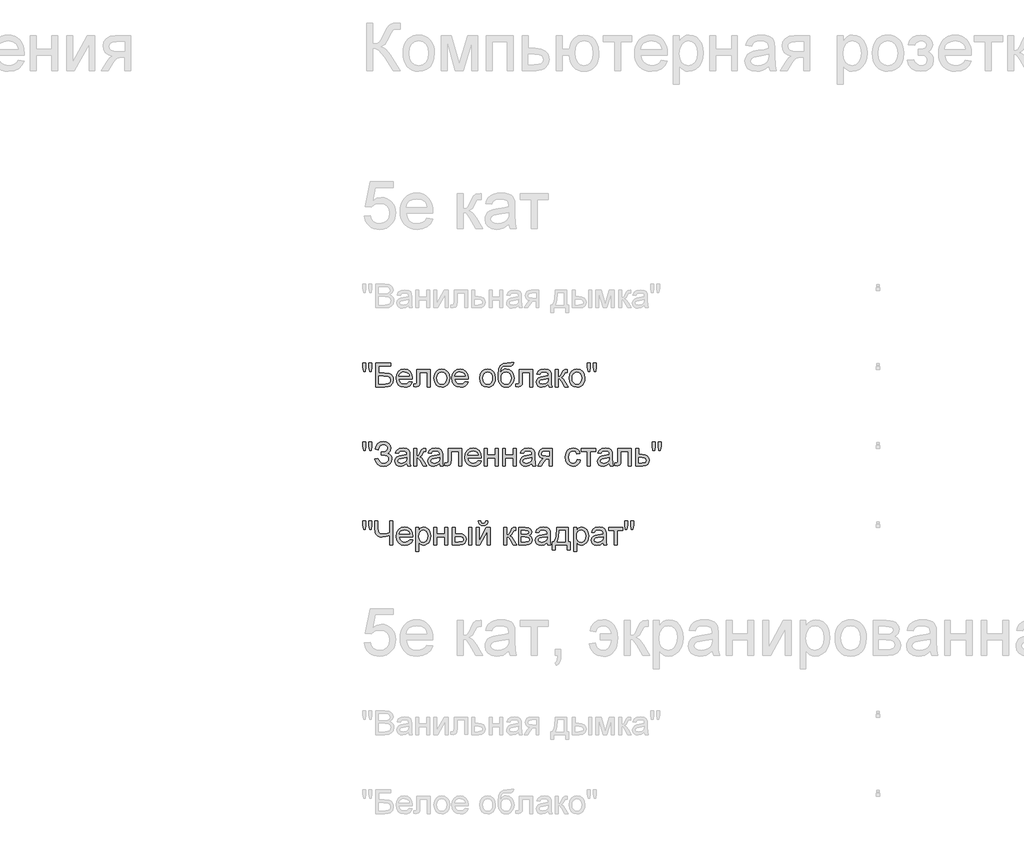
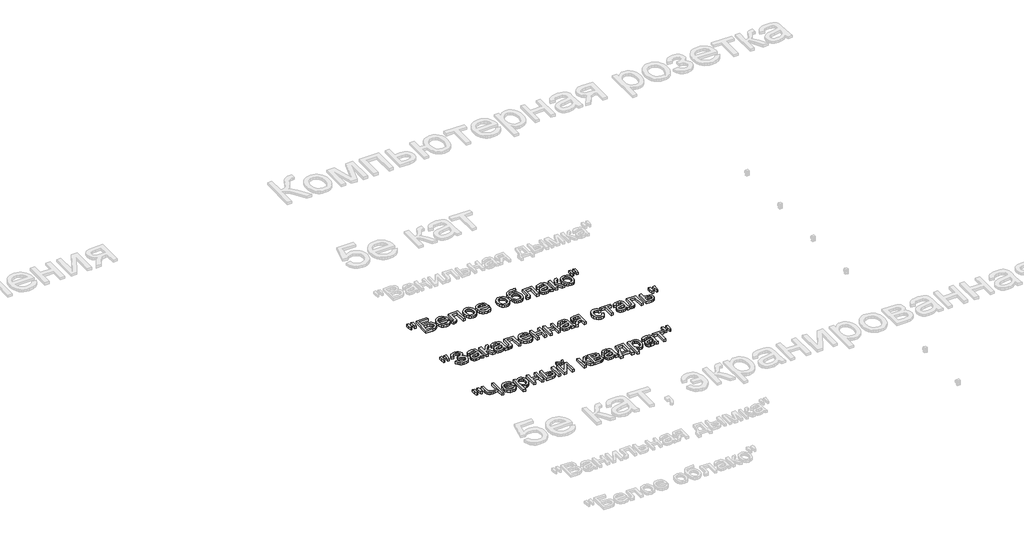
# One storey, part 76 of 168: 3 proxies.
"""IFC4 building model written with IfcOpenShell, lengths in millimetres."""

import ifcopenshell
import ifcopenshell.guid

model = None  # the IFC model being written
_history = None  # IfcOwnerHistory: only IFC2X3 demands one
_inside = {}  # id of a spatial element -> (the spatial element, [elements in it])
_under = {}  # id of a project, library or spatial element -> (it, [spatial elements below it])
_declared = {}  # id of a project -> (the project, [libraries it declares])
_typed = {}  # id of a type object -> (the type object, [elements of that type])
_made_of = {}  # id of a material, layer set ... -> (it, [elements and type objects made of it])


def new_model(schema):
    """Start an empty IFC model of exactly this schema.

    Asked for "IFC4X3", IfcOpenShell would pick the latest addendum, in which some entities
    have other attributes; the version numbers below select the first issue.
    IFC2X3 requires an IfcOwnerHistory on every rooted entity: one is made here for all.
    """
    global model, _history
    if schema == "IFC4X3":
        model = ifcopenshell.file(schema_version=(4, 3, 0, 0))
    else:
        model = ifcopenshell.file(schema=schema)
    _inside.clear()
    _under.clear()
    _declared.clear()
    _typed.clear()
    _made_of.clear()
    _history = None
    if model.schema == "IFC2X3":
        org = make("IfcOrganization", Name="unknown")
        user = make(
            "IfcPersonAndOrganization",
            ThePerson=make("IfcPerson", FamilyName="unknown"),
            TheOrganization=org,
        )
        app = make(
            "IfcApplication",
            ApplicationDeveloper=org,
            Version="unknown",
            ApplicationFullName="unknown",
            ApplicationIdentifier="unknown",
        )
        _history = make(
            "IfcOwnerHistory",
            OwningUser=user,
            OwningApplication=app,
            ChangeAction="ADDED",
            CreationDate=0,
        )
    return model


def make(cls, **values):
    """One entity of the class cls with the attributes given. An attribute that is None is left unset."""
    return model.create_entity(
        cls, **{name: value for name, value in values.items() if value is not None}
    )


def rooted(cls, **values):
    """An entity with a GlobalId (a new one), such as an element, a storey or a relation."""
    return make(cls, GlobalId=ifcopenshell.guid.new(), OwnerHistory=_history, **values)


def si_unit(unit_type, name, prefix=None):
    """IfcSIUnit, for example si_unit("LENGTHUNIT", "METRE", prefix="MILLI")."""
    return make("IfcSIUnit", UnitType=unit_type, Prefix=prefix, Name=name)


def assignment(units):
    """IfcUnitAssignment: the units of a project."""
    return None if units is None else make("IfcUnitAssignment", Units=units)


def point(xyz):
    """IfcCartesianPoint."""
    return None if xyz is None else make("IfcCartesianPoint", Coordinates=xyz)


def direction(xyz):
    """IfcDirection."""
    return None if xyz is None else make("IfcDirection", DirectionRatios=xyz)


def frame(location, z_axis=None, x_axis=None):
    """IfcAxis2Placement3D, a coordinate frame: its origin and axes. An axis left out is left unset."""
    return make(
        "IfcAxis2Placement3D",
        Location=point(location),
        Axis=direction(z_axis),
        RefDirection=direction(x_axis),
    )


def origin():
    """The frame at (0, 0, 0) with its axes left unset."""
    return frame((0.0, 0.0, 0.0))


def origin_with_axes():
    """The frame at (0, 0, 0) with the z axis (0, 0, 1) and the x axis (1, 0, 0) written out."""
    return frame((0.0, 0.0, 0.0), z_axis=(0.0, 0.0, 1.0), x_axis=(1.0, 0.0, 0.0))


def place(relative_to, where):
    """IfcLocalPlacement: puts the frame where relative to a parent placement (None: the world)."""
    return make(
        "IfcLocalPlacement", PlacementRelTo=relative_to, RelativePlacement=where
    )


def context(
    kind, dimensions, precision=None, world=None, true_north=None, identifier=None
):
    """IfcGeometricRepresentationContext, for example the 3D "Model" context."""
    return make(
        "IfcGeometricRepresentationContext",
        ContextIdentifier=identifier,
        ContextType=kind,
        CoordinateSpaceDimension=dimensions,
        Precision=precision,
        WorldCoordinateSystem=world,
        TrueNorth=true_north,
    )


def project(units=None, contexts=None):
    """IfcProject with its units and contexts."""
    return rooted(
        "IfcProject",
        Name="project",
        RepresentationContexts=contexts,
        UnitsInContext=assignment(units),
    )


def spatial(cls, under=None, at=None, **own):
    """A site, building, storey or space (cls), placed at a placement, below another one or the project."""
    s = rooted(cls, ObjectPlacement=at, **own)
    if under is not None:
        _under.setdefault(under.id(), (under, []))[1].append(s)
    return s


def polyline(points):
    """IfcPolyline through the points."""
    return make("IfcPolyline", Points=[point(p) for p in points])


def outline(outer, holes=None, kind="AREA"):
    """IfcArbitraryClosedProfileDef: a profile drawn as a closed curve; with holes, ...WithVoids."""
    if holes is None:
        return make("IfcArbitraryClosedProfileDef", ProfileType=kind, OuterCurve=outer)
    return make(
        "IfcArbitraryProfileDefWithVoids",
        ProfileType=kind,
        OuterCurve=outer,
        InnerCurves=holes,
    )


def extrude(swept, where, along, depth):
    """IfcExtrudedAreaSolid: the profile swept, set in the frame where, extruded along a direction by depth."""
    return make(
        "IfcExtrudedAreaSolid",
        SweptArea=swept,
        Position=where,
        ExtrudedDirection=direction(along),
        Depth=depth,
    )


def shape(context_of_items, identifier, shape_type, items):
    """IfcShapeRepresentation: the items that make up one representation, for example the "Body"."""
    return make(
        "IfcShapeRepresentation",
        ContextOfItems=context_of_items,
        RepresentationIdentifier=identifier,
        RepresentationType=shape_type,
        Items=items,
    )


def made_of(thing, what):
    """Note that an element or type object is made of a material, layer set ...; save() writes the relation."""
    if what is not None:
        _made_of.setdefault(what.id(), (what, []))[1].append(thing)
    return thing


def element(
    cls,
    number,
    at=None,
    inside=None,
    cuts=None,
    type_object=None,
    material=None,
    context=None,
    identifier="Body",
    shape_type=None,
    held_by="IfcProductDefinitionShape",
    body=None,
    shapes=None,
    **own,
):
    """One element of the class cls, such as IfcWall. Its Tag is "e" and its number.

    at: its placement. inside: the storey or other place that contains it. cuts: it is an
    opening in that element (IfcRelVoidsElement). A single representation is given by context,
    identifier, shape_type and body (its items); several are given by shapes. held_by: the class
    of the entity that holds the representations. save() writes the other relations.
    """
    e = rooted(cls, Tag="e%d" % number, ObjectPlacement=at, **own)
    if body is not None:
        shapes = [shape(context, identifier, shape_type, body)]
    if shapes is not None:
        e.Representation = make(held_by, Representations=shapes)
    if inside is not None:
        _inside.setdefault(inside.id(), (inside, []))[1].append(e)
    if cuts is not None:
        rooted(
            "IfcRelVoidsElement", RelatingBuildingElement=cuts, RelatedOpeningElement=e
        )
    if type_object is not None:
        _typed.setdefault(type_object.id(), (type_object, []))[1].append(e)
    return made_of(e, material)


def aggregate(whole, parts):
    """IfcRelAggregates: a whole, such as a stair, and the parts it consists of."""
    return rooted("IfcRelAggregates", RelatingObject=whole, RelatedObjects=parts)


def save(model, path):
    """Write the relations noted so far, then the file.

    IfcRelAggregates (storeys below a building ...), IfcRelContainedInSpatialStructure (elements
    in a storey), IfcRelDefinesByType, IfcRelAssociatesMaterial and IfcRelDeclares: one each for
    every whole, place, type object, material and project.
    """
    for whole, parts in _under.values():
        aggregate(whole, parts)
    for where, things in _inside.values():
        rooted(
            "IfcRelContainedInSpatialStructure",
            RelatedElements=things,
            RelatingStructure=where,
        )
    for kind, things in _typed.values():
        rooted("IfcRelDefinesByType", RelatedObjects=things, RelatingType=kind)
    for what, things in _made_of.values():
        rooted("IfcRelAssociatesMaterial", RelatedObjects=things, RelatingMaterial=what)
    for by, libraries in _declared.values():
        rooted("IfcRelDeclares", RelatingContext=by, RelatedDefinitions=libraries)
    model.write(path)


model = new_model("IFC4")

# Units and contexts
model_context = context("Model", 3, world=origin())
ifc_project = project(units=[si_unit("LENGTHUNIT", "METRE", prefix="MILLI")], contexts=[model_context])

# Site, building, storey
site = spatial("IfcSite", under=ifc_project)
building = spatial("IfcBuilding", under=site)
storey = spatial("IfcBuildingStorey", under=building, Name="Этаж 01", Elevation=0.0)

# Proxies
placement = place(None, origin())
element("IfcBuildingElementProxy", 1, Name="150", ObjectType="150", at=placement, inside=storey, context=model_context, shape_type="SweptSolid", body=[
    extrude(outline(polyline([(60180.1485789, -32870.3300622), (60175.550054, -32841.2305964), (60175.550054, -32816.1778325), (60194.3856121, -32816.1778325), (60194.3856121, -32841.2305964), (60190.2653338, -32870.3300622), (60180.1485789, -32870.3300622)])), origin_with_axes(), (0.0, 0.0, 1.0), 20.0),
    extrude(outline(polyline([(60217.7093306, -32870.3300622), (60213.2211703, -32841.2305964), (60213.2211703, -32816.1778325), (60232.0567284, -32816.1778325), (60232.0567284, -32841.2305964), (60227.6421445, -32870.3300622), (60217.7093306, -32870.3300622)])), origin_with_axes(), (0.0, 0.0, 1.0), 20.0),
    extrude(outline(polyline([(60257.9556209, -32816.1778325), (60352.1334117, -32816.1778325), (60352.1334117, -32835.0133907), (60276.791179, -32835.0133907), (60276.791179, -32879.7478413), (60312.0710624, -32879.7478413), (60343.157091, -32883.573814), (60353.5589544, -32889.101241), (60361.6615553, -32898.0315764), (60366.8762826, -32909.5278888), (60368.614525, -32922.7532465), (60363.6665122, -32944.2191609), (60348.8960501, -32960.5347274), (60335.6247071, -32965.2804052), (60315.4555767, -32966.8622977), (60257.9556209, -32966.8622977), (60257.9556209, -32816.1778325)]), holes=[polyline([(60276.791179, -32948.0267396), (60317.1478339, -32948.0267396), (60331.4124583, -32946.4724382), (60341.6119866, -32941.8095339), (60347.7372218, -32934.0380267), (60349.7789669, -32923.1579167), (60345.1068655, -32908.4058487), (60332.102237, -32900.533174), (60303.7201411, -32898.5833994), (60276.791179, -32898.5833994), (60276.791179, -32948.0267396)])]), origin_with_axes(), (0.0, 0.0, 1.0), 20.0),
    extrude(outline(polyline([(60469.6349209, -32933.900071), (60488.1025971, -32936.2545157), (60481.4485315, -32950.1696522), (60470.8305374, -32960.5715156), (60456.4877381, -32967.0554358), (60438.6592569, -32969.2167425), (60416.5587461, -32965.4873388), (60399.5534008, -32954.2991276), (60388.710079, -32936.3786759), (60385.0956384, -32912.4525506), (60388.7468672, -32887.7216835), (60399.7005536, -32869.2264162), (60416.4759726, -32857.6933157), (60437.5923991, -32853.8489488), (60458.0512366, -32857.6841186), (60474.3989927, -32869.189628), (60485.1181544, -32887.6481071), (60488.6912083, -32912.342186), (60488.5808437, -32917.4189576), (60403.9311966, -32917.4189576), (60407.1915508, -32931.518035), (60414.7653213, -32941.8831103), (60425.6960151, -32948.2566658), (60439.0271389, -32950.3811843), (60457.4948151, -32946.444847), (60469.6349209, -32933.900071)]), holes=[polyline([(60403.9311966, -32898.5833994), (60469.8556501, -32898.5833994), (60467.3080673, -32888.6321915), (60462.3140692, -32881.5136749), (60451.3327917, -32874.8917989), (60437.5188227, -32872.684507), (60424.8222954, -32874.445742), (60414.3238629, -32879.7294472), (60407.0260039, -32887.9654053), (60403.9311966, -32898.5833994)])]), origin_with_axes(), (0.0, 0.0, 1.0), 20.0),
    extrude(outline(polyline([(60516.9445455, -32856.2033936), (60601.7045572, -32856.2033936), (60601.7045572, -32966.7519331), (60582.868999, -32966.7519331), (60582.868999, -32875.0389517), (60535.7801036, -32875.0389517), (60535.7801036, -32927.830018), (60534.5109108, -32952.1838061), (60527.539547, -32962.4661079), (60511.0584336, -32966.8622977), (60495.7545426, -32965.9058045), (60495.7545426, -32948.0267396), (60504.1790403, -32948.0267396), (60512.6955084, -32946.8679113), (60516.0984169, -32943.1890913), (60516.9445455, -32926.7631603), (60516.9445455, -32856.2033936)])), origin_with_axes(), (0.0, 0.0, 1.0), 20.0),
    extrude(outline(polyline([(60625.2490049, -32911.5328457), (60629.323298, -32884.852204), (60641.5461773, -32866.0994193), (60656.6477332, -32856.9115664), (60674.7291332, -32853.8489488), (60694.516586, -32857.5783525), (60710.3217163, -32868.7665637), (60720.6821929, -32886.5306656), (60724.1356852, -32909.9877413), (60722.6089749, -32929.0164375), (60718.0288441, -32943.501791), (60710.5286499, -32954.3497114), (60700.2417496, -32962.4661079), (60688.0234688, -32967.5290839), (60674.7291332, -32969.2167425), (60654.7025571, -32965.5011344), (60638.915821, -32954.3543099), (60628.6657089, -32936.2177275), (60625.2490049, -32911.5328457)]), holes=[polyline([(60644.084563, -32911.4960575), (60646.2642638, -32928.5427894), (60652.8033663, -32940.6874938), (60662.6442097, -32947.9577617), (60674.7291332, -32950.3811843), (60686.7588745, -32947.9439661), (60696.5813237, -32940.6323115), (60703.1204262, -32928.3266587), (60705.300127, -32910.9074463), (60703.1066306, -32894.357355), (60696.5261414, -32882.3781975), (60686.6898966, -32875.1079296), (60674.7291332, -32872.684507), (60662.6442097, -32875.0987326), (60652.8033663, -32882.3414093), (60646.2642638, -32894.4585226), (60644.084563, -32911.4960575)])]), origin_with_axes(), (0.0, 0.0, 1.0), 20.0),
    extrude(outline(polyline([(60822.8016363, -32933.900071), (60841.2693124, -32936.2545157), (60834.6152469, -32950.1696522), (60823.9972528, -32960.5715156), (60809.6544535, -32967.0554358), (60791.8259723, -32969.2167425), (60769.7254614, -32965.4873388), (60752.7201162, -32954.2991276), (60741.8767944, -32936.3786759), (60738.2623538, -32912.4525506), (60741.9135826, -32887.7216835), (60752.867269, -32869.2264162), (60769.642688, -32857.6933157), (60790.7591145, -32853.8489488), (60811.217952, -32857.6841186), (60827.5657081, -32869.189628), (60838.2848698, -32887.6481071), (60841.8579236, -32912.342186), (60841.747559, -32917.4189576), (60757.0979119, -32917.4189576), (60760.3582661, -32931.518035), (60767.9320367, -32941.8831103), (60778.8627305, -32948.2566658), (60792.1938543, -32950.3811843), (60810.6615304, -32946.444847), (60822.8016363, -32933.900071)]), holes=[polyline([(60757.0979119, -32898.5833994), (60823.0223655, -32898.5833994), (60820.4747827, -32888.6321915), (60815.4807846, -32881.5136749), (60804.499507, -32874.8917989), (60790.6855381, -32872.684507), (60777.9890107, -32874.445742), (60767.4905783, -32879.7294472), (60760.1927192, -32887.9654053), (60757.0979119, -32898.5833994)])]), origin_with_axes(), (0.0, 0.0, 1.0), 20.0),
    extrude(outline(polyline([(60914.8457115, -32911.5328457), (60918.9200046, -32884.852204), (60931.1428839, -32866.0994193), (60946.2444398, -32856.9115664), (60964.3258398, -32853.8489488), (60984.1132926, -32857.5783525), (60999.9184229, -32868.7665637), (61010.2788995, -32886.5306656), (61013.7323918, -32909.9877413), (61012.2056815, -32929.0164375), (61007.6255507, -32943.501791), (61000.1253565, -32954.3497114), (60989.8384562, -32962.4661079), (60977.6201754, -32967.5290839), (60964.3258398, -32969.2167425), (60944.2992637, -32965.5011344), (60928.5125276, -32954.3543099), (60918.2624155, -32936.2177275), (60914.8457115, -32911.5328457)]), holes=[polyline([(60933.6812696, -32911.4960575), (60935.8609704, -32928.5427894), (60942.4000729, -32940.6874938), (60952.2409163, -32947.9577617), (60964.3258398, -32950.3811843), (60976.3555811, -32947.9439661), (60986.1780303, -32940.6323115), (60992.7171328, -32928.3266587), (60994.8968336, -32910.9074463), (60992.7033372, -32894.357355), (60986.122848, -32882.3781975), (60976.2866032, -32875.1079296), (60964.3258398, -32872.684507), (60952.2409163, -32875.0987326), (60942.4000729, -32882.3414093), (60935.8609704, -32894.4585226), (60933.6812696, -32911.4960575)])]), origin_with_axes(), (0.0, 0.0, 1.0), 20.0),
    extrude(outline(polyline([(61112.6190721, -32813.8233877), (61129.1001855, -32813.8233877), (61124.2441431, -32828.5202734), (61114.6424231, -32833.8361683), (61091.576222, -32835.0133907), (61060.5085875, -32839.3543982), (61053.3808738, -32845.0013868), (61048.5892108, -32853.2603376), (61044.560903, -32877.8716431), (61060.8764695, -32859.8454253), (61070.7954878, -32855.3480679), (61081.9009255, -32853.8489488), (61101.4998388, -32857.661126), (61117.401538, -32869.0976575), (61127.9413572, -32887.0365033), (61131.4546302, -32910.3556233), (61129.7117893, -32928.3358558), (61124.4832664, -32942.766027), (61107.9469707, -32962.3189551), (61096.6529935, -32967.4922957), (61081.9009255, -32969.2167425), (61064.9001788, -32966.995655), (61052.1576662, -32960.3323923), (61042.7812738, -32950.2064404), (61035.8788879, -32937.597285), (61031.6298508, -32918.6099755), (61030.2135052, -32889.3495614), (61033.786559, -32853.2097538), (61044.5057207, -32831.1690238), (61062.6377045, -32819.9256303), (61088.449225, -32816.1778325), (61109.4184987, -32815.7547682), (61112.6190721, -32813.8233877)]), holes=[polyline([(61112.6190721, -32909.7670121), (61110.577327, -32894.9459662), (61104.4520918, -32883.0771733), (61094.6112484, -32875.2826736), (61081.4226789, -32872.684507), (61067.6730893, -32875.4298264), (61057.473561, -32883.6657845), (61051.1551877, -32896.4910706), (61049.0490633, -32913.0043736), (61051.3759169, -32929.011839), (61058.3564778, -32940.7610702), (61068.7491442, -32947.9761558), (61081.3123143, -32950.3811843), (61093.9398638, -32947.5990768), (61103.937057, -32939.252754), (61110.4485683, -32926.3171033), (61112.6190721, -32909.7670121)])]), origin_with_axes(), (0.0, 0.0, 1.0), 20.0),
    extrude(outline(polyline([(61164.416857, -32856.2033936), (61249.1768687, -32856.2033936), (61249.1768687, -32966.7519331), (61230.3413105, -32966.7519331), (61230.3413105, -32875.0389517), (61183.2524152, -32875.0389517), (61183.2524152, -32927.830018), (61181.9832223, -32952.1838061), (61175.0118585, -32962.4661079), (61158.5307451, -32966.8622977), (61143.2268541, -32965.9058045), (61143.2268541, -32948.0267396), (61151.6513518, -32948.0267396), (61160.16782, -32946.8679113), (61163.5707284, -32943.1890913), (61164.416857, -32926.7631603), (61164.416857, -32856.2033936)])), origin_with_axes(), (0.0, 0.0, 1.0), 20.0),
    extrude(outline(polyline([(61348.063549, -32952.7356291), (61329.7982079, -32965.5011344), (61309.6198805, -32969.2167425), (61293.8791296, -32966.9818594), (61282.2678542, -32960.27721), (61275.1079508, -32950.0960758), (61272.7213164, -32937.4317381), (61276.3265599, -32922.5325173), (61285.7995213, -32911.7167867), (61298.9880908, -32905.5363691), (61315.2852632, -32902.7036778), (61347.9531844, -32896.2289547), (61348.063549, -32892.0350999), (61346.766765, -32883.6289963), (61342.8764129, -32878.1291605), (61334.1760037, -32874.0456704), (61322.0542919, -32872.684507), (61302.9980046, -32876.3081446), (61293.9113193, -32889.1656204), (61275.0757612, -32886.8111756), (61283.2243473, -32868.4170758), (61299.6318843, -32857.6381334), (61324.4823131, -32853.8489488), (61347.3093909, -32857.196675), (61360.2036548, -32865.6027786), (61365.9794022, -32878.3866779), (61366.8991071, -32894.8677913), (61366.8991071, -32918.3018744), (61367.8556003, -32951.0249778), (61371.6079967, -32966.8622977), (61352.7724385, -32966.8622977), (61348.063549, -32952.7356291)]), holes=[polyline([(61348.063549, -32915.0645128), (61317.6764962, -32920.8402601), (61301.4712943, -32923.8936807), (61294.1320485, -32928.8600876), (61291.5568745, -32936.1073629), (61297.167075, -32946.2976942), (61313.6297942, -32950.3811843), (61332.6860816, -32945.8746299), (61344.9733402, -32934.9669288), (61347.9531844, -32920.3988017), (61348.063549, -32915.0645128)])]), origin_with_axes(), (0.0, 0.0, 1.0), 20.0),
    extrude(outline(polyline([(61392.7979996, -32856.2033936), (61411.6335578, -32856.2033936), (61411.6335578, -32903.292289), (61424.2519102, -32899.9077746), (61434.5893943, -32880.1892997), (61443.1794388, -32863.1747574), (61450.7578079, -32857.6381334), (61464.5349887, -32856.2033936), (61468.1402322, -32856.2033936), (61468.1402322, -32875.1493163), (61463.0634607, -32875.0389517), (61453.8664108, -32877.0255145), (61447.3916877, -32889.4231377), (61439.7949245, -32902.8324365), (61429.1447407, -32909.3991301), (61441.0273292, -32916.7291788), (61452.6891884, -32932.1710256), (61472.8491218, -32966.8622977), (61451.4383896, -32966.8622977), (61431.6831265, -32932.9067896), (61421.7503126, -32918.5409977), (61411.6335578, -32915.0645128), (61411.6335578, -32966.8622977), (61392.7979996, -32966.8622977), (61392.7979996, -32856.2033936)])), origin_with_axes(), (0.0, 0.0, 1.0), 20.0),
    extrude(outline(polyline([(61479.9124561, -32911.5328457), (61483.9867492, -32884.852204), (61496.2096285, -32866.0994193), (61511.3111844, -32856.9115664), (61529.3925844, -32853.8489488), (61549.1800372, -32857.5783525), (61564.9851674, -32868.7665637), (61575.3456441, -32886.5306656), (61578.7991364, -32909.9877413), (61577.2724261, -32929.0164375), (61572.6922952, -32943.501791), (61565.1921011, -32954.3497114), (61554.9052008, -32962.4661079), (61542.68692, -32967.5290839), (61529.3925844, -32969.2167425), (61509.3660083, -32965.5011344), (61493.5792722, -32954.3543099), (61483.3291601, -32936.2177275), (61479.9124561, -32911.5328457)]), holes=[polyline([(61498.7480142, -32911.4960575), (61500.927715, -32928.5427894), (61507.4668175, -32940.6874938), (61517.3076609, -32947.9577617), (61529.3925844, -32950.3811843), (61541.4223257, -32947.9439661), (61551.2447749, -32940.6323115), (61557.7838774, -32928.3266587), (61559.9635782, -32910.9074463), (61557.7700818, -32894.357355), (61551.1895926, -32882.3781975), (61541.3533478, -32875.1079296), (61529.3925844, -32872.684507), (61517.3076609, -32875.0987326), (61507.4668175, -32882.3414093), (61500.927715, -32894.4585226), (61498.7480142, -32911.4960575)])]), origin_with_axes(), (0.0, 0.0, 1.0), 20.0),
    extrude(outline(polyline([(61599.8787747, -32870.3300622), (61595.2802498, -32841.2305964), (61595.2802498, -32816.1778325), (61614.1158079, -32816.1778325), (61614.1158079, -32841.2305964), (61609.9955296, -32870.3300622), (61599.8787747, -32870.3300622)])), origin_with_axes(), (0.0, 0.0, 1.0), 20.0),
    extrude(outline(polyline([(61637.4395264, -32870.3300622), (61632.9513661, -32841.2305964), (61632.9513661, -32816.1778325), (61651.7869242, -32816.1778325), (61651.7869242, -32841.2305964), (61647.3723403, -32870.3300622), (61637.4395264, -32870.3300622)])), origin_with_axes(), (0.0, 0.0, 1.0), 20.0),
])
element("IfcBuildingElementProxy", 2, Name="150", ObjectType="150", at=placement, inside=storey, context=model_context, shape_type="SweptSolid", body=[
    extrude(outline(polyline([(60180.1485789, -33370.3300622), (60175.550054, -33341.2305964), (60175.550054, -33316.1778325), (60194.3856121, -33316.1778325), (60194.3856121, -33341.2305964), (60190.2653338, -33370.3300622), (60180.1485789, -33370.3300622)])), origin_with_axes(), (0.0, 0.0, 1.0), 20.0),
    extrude(outline(polyline([(60217.7093306, -33370.3300622), (60213.2211703, -33341.2305964), (60213.2211703, -33316.1778325), (60232.0567284, -33316.1778325), (60232.0567284, -33341.2305964), (60227.6421445, -33370.3300622), (60217.7093306, -33370.3300622)])), origin_with_axes(), (0.0, 0.0, 1.0), 20.0),
    extrude(outline(polyline([(60250.8922866, -33424.4822919), (60269.7278447, -33419.7734024), (60281.2977335, -33440.172459), (60292.2284273, -33447.829003), (60306.2217387, -33450.3811843), (60320.398991, -33448.4635995), (60331.2193202, -33442.7108448), (60338.0757209, -33434.2449603), (60340.3611878, -33424.1879863), (60337.8641888, -33413.6527657), (60330.3731916, -33405.517975), (60318.5779752, -33400.3170433), (60303.1683181, -33398.5833994), (60293.2722924, -33398.5833994), (60293.2722924, -33379.7478413), (60314.591054, -33378.221131), (60327.6324708, -33370.4220327), (60333.2978535, -33356.1666054), (60331.4124583, -33347.2960508), (60325.7562726, -33339.6670979), (60316.8811195, -33334.4109839), (60305.3388219, -33332.6589459), (60286.1169876, -33338.0484171), (60275.117316, -33352.3406326), (60272.0822895, -33365.6211727), (60253.2467313, -33360.9122831), (60259.0983543, -33340.3108914), (60269.7002536, -33325.5956116), (60285.0524291, -33316.7664437), (60305.1548809, -33313.8233877), (60324.5468605, -33316.8814068), (60339.4598769, -33326.0554641), (60348.965028, -33339.3222085), (60352.1334117, -33354.6582892), (60347.2037929, -33373.3007093), (60332.4149367, -33387.2158458), (60342.8903765, -33392.0396984), (60351.5080123, -33400.1836861), (60357.2745625, -33410.948833), (60359.196746, -33423.6361633), (60355.508729, -33441.4738415), (60344.444678, -33456.1385376), (60327.2921799, -33465.9471913), (60305.3388219, -33469.2167425), (60286.2365493, -33466.4208393), (60270.7947025, -33458.0331298), (60259.0132816, -33444.053614), (60250.8922866, -33424.4822919)])), origin_with_axes(), (0.0, 0.0, 1.0), 20.0),
    extrude(outline(polyline([(60453.3745367, -33452.7356291), (60435.1091957, -33465.5011344), (60414.9308682, -33469.2167425), (60399.1901174, -33466.9818594), (60387.5788419, -33460.27721), (60380.4189386, -33450.0960758), (60378.0323041, -33437.4317381), (60381.6375477, -33422.5325173), (60391.110509, -33411.7167867), (60404.2990786, -33405.5363691), (60420.596251, -33402.7036778), (60453.2641721, -33396.2289547), (60453.3745367, -33392.0350999), (60452.0777527, -33383.6289963), (60448.1874006, -33378.1291605), (60439.4869914, -33374.0456704), (60427.3652797, -33372.684507), (60408.3089923, -33376.3081446), (60399.222307, -33389.1656204), (60380.3867489, -33386.8111756), (60388.5353351, -33368.4170758), (60404.9428721, -33357.6381334), (60429.7933008, -33353.8489488), (60452.6203786, -33357.196675), (60465.5146426, -33365.6027786), (60471.2903899, -33378.3866779), (60472.2100949, -33394.8677913), (60472.2100949, -33418.3018744), (60473.1665881, -33451.0249778), (60476.9189844, -33466.8622977), (60458.0834263, -33466.8622977), (60453.3745367, -33452.7356291)]), holes=[polyline([(60453.3745367, -33415.0645128), (60422.9874839, -33420.8402601), (60406.782282, -33423.8936807), (60399.4430362, -33428.8600876), (60396.8678623, -33436.1073629), (60402.4780627, -33446.2976942), (60418.940782, -33450.3811843), (60437.9970693, -33445.8746299), (60450.284328, -33434.9669288), (60453.2641721, -33420.3988017), (60453.3745367, -33415.0645128)])]), origin_with_axes(), (0.0, 0.0, 1.0), 20.0),
    extrude(outline(polyline([(60498.1089873, -33356.2033936), (60516.9445455, -33356.2033936), (60516.9445455, -33403.292289), (60529.5628979, -33399.9077746), (60539.900382, -33380.1892997), (60548.4904266, -33363.1747574), (60556.0687957, -33357.6381334), (60569.8459764, -33356.2033936), (60573.4512199, -33356.2033936), (60573.4512199, -33375.1493163), (60568.3744484, -33375.0389517), (60559.1773985, -33377.0255145), (60552.7026754, -33389.4231377), (60545.1059122, -33402.8324365), (60534.4557285, -33409.3991301), (60546.3383169, -33416.7291788), (60558.0001762, -33432.1710256), (60578.1601095, -33466.8622977), (60556.7493774, -33466.8622977), (60536.9941142, -33432.9067896), (60527.0613004, -33418.5409977), (60516.9445455, -33415.0645128), (60516.9445455, -33466.8622977), (60498.1089873, -33466.8622977), (60498.1089873, -33356.2033936)])), origin_with_axes(), (0.0, 0.0, 1.0), 20.0),
    extrude(outline(polyline([(60660.5656764, -33452.7356291), (60642.3003353, -33465.5011344), (60622.1220079, -33469.2167425), (60606.381257, -33466.9818594), (60594.7699816, -33460.27721), (60587.6100782, -33450.0960758), (60585.2234438, -33437.4317381), (60588.8286873, -33422.5325173), (60598.3016487, -33411.7167867), (60611.4902183, -33405.5363691), (60627.7873906, -33402.7036778), (60660.4553118, -33396.2289547), (60660.5656764, -33392.0350999), (60659.2688924, -33383.6289963), (60655.3785403, -33378.1291605), (60646.6781311, -33374.0456704), (60634.5564193, -33372.684507), (60615.500132, -33376.3081446), (60606.4134467, -33389.1656204), (60587.5778886, -33386.8111756), (60595.7264748, -33368.4170758), (60612.1340117, -33357.6381334), (60636.9844405, -33353.8489488), (60659.8115183, -33357.196675), (60672.7057822, -33365.6027786), (60678.4815296, -33378.3866779), (60679.4012346, -33394.8677913), (60679.4012346, -33418.3018744), (60680.3577277, -33451.0249778), (60684.1101241, -33466.8622977), (60665.2745659, -33466.8622977), (60660.5656764, -33452.7356291)]), holes=[polyline([(60660.5656764, -33415.0645128), (60630.1786236, -33420.8402601), (60613.9734217, -33423.8936807), (60606.6341759, -33428.8600876), (60604.0590019, -33436.1073629), (60609.6692024, -33446.2976942), (60626.1319217, -33450.3811843), (60645.188209, -33445.8746299), (60657.4754676, -33434.9669288), (60660.4553118, -33420.3988017), (60660.5656764, -33415.0645128)])]), origin_with_axes(), (0.0, 0.0, 1.0), 20.0),
    extrude(outline(polyline([(60714.7179061, -33356.2033936), (60799.4779178, -33356.2033936), (60799.4779178, -33466.7519331), (60780.6423596, -33466.7519331), (60780.6423596, -33375.0389517), (60733.5534643, -33375.0389517), (60733.5534643, -33427.830018), (60732.2842714, -33452.1838061), (60725.3129076, -33462.4661079), (60708.8317942, -33466.8622977), (60693.5279032, -33465.9058045), (60693.5279032, -33448.0267396), (60701.9524009, -33448.0267396), (60710.4688691, -33446.8679113), (60713.8717775, -33443.1890913), (60714.7179061, -33426.7631603), (60714.7179061, -33356.2033936)])), origin_with_axes(), (0.0, 0.0, 1.0), 20.0),
    extrude(outline(polyline([(60905.2072032, -33433.900071), (60923.6748794, -33436.2545157), (60917.0208138, -33450.1696522), (60906.4028197, -33460.5715156), (60892.0600204, -33467.0554358), (60874.2315392, -33469.2167425), (60852.1310283, -33465.4873388), (60835.1256831, -33454.2991276), (60824.2823613, -33436.3786759), (60820.6679207, -33412.4525506), (60824.3191495, -33387.7216835), (60835.2728359, -33369.2264162), (60852.0482549, -33357.6933157), (60873.1646814, -33353.8489488), (60893.6235189, -33357.6841186), (60909.971275, -33369.189628), (60920.6904367, -33387.6481071), (60924.2634906, -33412.342186), (60924.153126, -33417.4189576), (60839.5034789, -33417.4189576), (60842.763833, -33431.518035), (60850.3376036, -33441.8831103), (60861.2682974, -33448.2566658), (60874.5994212, -33450.3811843), (60893.0670974, -33446.444847), (60905.2072032, -33433.900071)]), holes=[polyline([(60839.5034789, -33398.5833994), (60905.4279324, -33398.5833994), (60902.8803496, -33388.6321915), (60897.8863515, -33381.5136749), (60886.9050739, -33374.8917989), (60873.091105, -33372.684507), (60860.3945777, -33374.445742), (60849.8961452, -33379.7294472), (60842.5982861, -33387.9654053), (60839.5034789, -33398.5833994)])]), origin_with_axes(), (0.0, 0.0, 1.0), 20.0),
    extrude(outline(polyline([(60943.0990487, -33356.2033936), (60961.9346069, -33356.2033936), (60961.9346069, -33398.5833994), (61011.377947, -33398.5833994), (61011.377947, -33356.2033936), (61030.2135052, -33356.2033936), (61030.2135052, -33466.8622977), (61011.377947, -33466.8622977), (61011.377947, -33417.4189576), (60961.9346069, -33417.4189576), (60961.9346069, -33466.8622977), (60943.0990487, -33466.8622977), (60943.0990487, -33356.2033936)])), origin_with_axes(), (0.0, 0.0, 1.0), 20.0),
    extrude(outline(polyline([(61058.4668424, -33356.2033936), (61077.3024005, -33356.2033936), (61077.3024005, -33398.5833994), (61126.7457407, -33398.5833994), (61126.7457407, -33356.2033936), (61145.5812988, -33356.2033936), (61145.5812988, -33466.8622977), (61126.7457407, -33466.8622977), (61126.7457407, -33417.4189576), (61077.3024005, -33417.4189576), (61077.3024005, -33466.8622977), (61058.4668424, -33466.8622977), (61058.4668424, -33356.2033936)])), origin_with_axes(), (0.0, 0.0, 1.0), 20.0),
    extrude(outline(polyline([(61244.4679792, -33452.7356291), (61226.2026381, -33465.5011344), (61206.0243107, -33469.2167425), (61190.2835598, -33466.9818594), (61178.6722843, -33460.27721), (61171.512381, -33450.0960758), (61169.1257465, -33437.4317381), (61172.7309901, -33422.5325173), (61182.2039515, -33411.7167867), (61195.392521, -33405.5363691), (61211.6896934, -33402.7036778), (61244.3576146, -33396.2289547), (61244.4679792, -33392.0350999), (61243.1711951, -33383.6289963), (61239.280843, -33378.1291605), (61230.5804338, -33374.0456704), (61218.4587221, -33372.684507), (61199.4024347, -33376.3081446), (61190.3157495, -33389.1656204), (61171.4801913, -33386.8111756), (61179.6287775, -33368.4170758), (61196.0363145, -33357.6381334), (61220.8867433, -33353.8489488), (61243.7138211, -33357.196675), (61256.608085, -33365.6027786), (61262.3838323, -33378.3866779), (61263.3035373, -33394.8677913), (61263.3035373, -33418.3018744), (61264.2600305, -33451.0249778), (61268.0124268, -33466.8622977), (61249.1768687, -33466.8622977), (61244.4679792, -33452.7356291)]), holes=[polyline([(61244.4679792, -33415.0645128), (61214.0809264, -33420.8402601), (61197.8757245, -33423.8936807), (61190.5364787, -33428.8600876), (61187.9613047, -33436.1073629), (61193.5715051, -33446.2976942), (61210.0342244, -33450.3811843), (61229.0905118, -33445.8746299), (61241.3777704, -33434.9669288), (61244.3576146, -33420.3988017), (61244.4679792, -33415.0645128)])]), origin_with_axes(), (0.0, 0.0, 1.0), 20.0),
    extrude(outline(polyline([(61373.9624415, -33356.2033936), (61373.9624415, -33466.8622977), (61355.1268833, -33466.8622977), (61355.1268833, -33424.4822919), (61344.8629756, -33424.4822919), (61330.8834598, -33426.8735249), (61317.7500726, -33442.949968), (61302.7404872, -33466.8622977), (61280.9618731, -33466.8622977), (61299.8710076, -33436.6223977), (61308.2219289, -33425.7698789), (61315.9106626, -33420.9506247), (61303.0347928, -33417.0050903), (61293.9848957, -33409.5094947), (61288.6322127, -33399.5398926), (61286.847985, -33388.172339), (61289.2852032, -33375.278075), (61296.5968579, -33365.0693497), (61308.5254316, -33358.4198826), (61324.8134069, -33356.2033936), (61373.9624415, -33356.2033936)]), holes=[polyline([(61355.1268833, -33375.0389517), (61330.2948486, -33375.0389517), (61317.4695626, -33376.1288021), (61310.1900976, -33379.3983534), (61305.6835431, -33389.6070787), (61307.3436107, -33396.7853762), (61312.3238132, -33401.7655787), (61335.8498668, -33405.6467337), (61355.1268833, -33405.6467337), (61355.1268833, -33375.0389517)])]), origin_with_axes(), (0.0, 0.0, 1.0), 20.0),
    extrude(outline(polyline([(61531.710241, -33426.8367367), (61550.5457991, -33429.1911814), (61545.2942837, -33445.9436078), (61535.4258491, -33458.6033469), (61521.8693976, -33466.5633936), (61505.5538311, -33469.2167425), (61485.518058, -33465.5149299), (61469.8508835, -33454.4094922), (61459.7387272, -33436.387873), (61456.3680084, -33411.9375159), (61457.8073467, -33395.1758924), (61462.1253616, -33380.6491522), (61469.391031, -33368.918315), (61479.6733328, -33360.5444011), (61491.974387, -33355.5228119), (61505.2963137, -33353.8489488), (61521.2118085, -33356.1482113), (61533.9359271, -33363.0459987), (61543.0639991, -33374.174429), (61548.1913544, -33389.1656204), (61529.3557962, -33391.5200651), (61520.6185988, -33377.4117906), (61505.4434665, -33372.684507), (61493.271171, -33375.0113606), (61483.6096701, -33381.9919214), (61477.3050924, -33394.0032686), (61475.2035665, -33411.4224811), (61477.2591072, -33429.0762183), (61483.4257291, -33441.1289522), (61492.9124861, -33448.0681263), (61504.9284317, -33450.3811843), (61514.6819031, -33448.9372475), (61522.678738, -33444.605437), (61528.4958721, -33437.2753883), (61531.710241, -33426.8367367)])), origin_with_axes(), (0.0, 0.0, 1.0), 20.0),
    extrude(outline(polyline([(61557.6091334, -33356.2033936), (61647.0780347, -33356.2033936), (61647.0780347, -33375.0389517), (61611.7613631, -33375.0389517), (61611.7613631, -33466.8622977), (61592.925805, -33466.8622977), (61592.925805, -33375.0389517), (61557.6091334, -33375.0389517), (61557.6091334, -33356.2033936)])), origin_with_axes(), (0.0, 0.0, 1.0), 20.0),
    extrude(outline(polyline([(61734.1924911, -33452.7356291), (61715.9271501, -33465.5011344), (61695.7488226, -33469.2167425), (61680.0080718, -33466.9818594), (61668.3967963, -33460.27721), (61661.236893, -33450.0960758), (61658.8502585, -33437.4317381), (61662.4555021, -33422.5325173), (61671.9284634, -33411.7167867), (61685.117033, -33405.5363691), (61701.4142054, -33402.7036778), (61734.0821265, -33396.2289547), (61734.1924911, -33392.0350999), (61732.8957071, -33383.6289963), (61729.005355, -33378.1291605), (61720.3049458, -33374.0456704), (61708.1832341, -33372.684507), (61689.1269467, -33376.3081446), (61680.0402614, -33389.1656204), (61661.2047033, -33386.8111756), (61669.3532895, -33368.4170758), (61685.7608265, -33357.6381334), (61710.6112552, -33353.8489488), (61733.438333, -33357.196675), (61746.332597, -33365.6027786), (61752.1083443, -33378.3866779), (61753.0280493, -33394.8677913), (61753.0280493, -33418.3018744), (61753.9845425, -33451.0249778), (61757.7369388, -33466.8622977), (61738.9013807, -33466.8622977), (61734.1924911, -33452.7356291)]), holes=[polyline([(61734.1924911, -33415.0645128), (61703.8054383, -33420.8402601), (61687.6002364, -33423.8936807), (61680.2609906, -33428.8600876), (61677.6858167, -33436.1073629), (61683.2960171, -33446.2976942), (61699.7587364, -33450.3811843), (61718.8150237, -33445.8746299), (61731.1022824, -33434.9669288), (61734.0821265, -33420.3988017), (61734.1924911, -33415.0645128)])]), origin_with_axes(), (0.0, 0.0, 1.0), 20.0),
    extrude(outline(polyline([(61788.3447208, -33356.2033936), (61873.1047325, -33356.2033936), (61873.1047325, -33466.7519331), (61854.2691744, -33466.7519331), (61854.2691744, -33375.0389517), (61807.180279, -33375.0389517), (61807.180279, -33427.830018), (61805.9110861, -33452.1838061), (61798.9397223, -33462.4661079), (61782.4586089, -33466.8622977), (61767.1547179, -33465.9058045), (61767.1547179, -33448.0267396), (61775.5792156, -33448.0267396), (61784.0956838, -33446.8679113), (61787.4985922, -33443.1890913), (61788.3447208, -33426.7631603), (61788.3447208, -33356.2033936)])), origin_with_axes(), (0.0, 0.0, 1.0), 20.0),
    extrude(outline(polyline([(61901.3580697, -33356.2033936), (61920.1936279, -33356.2033936), (61920.1936279, -33396.2289547), (61941.8986656, -33396.2289547), (61960.7158297, -33398.587998), (61974.6401632, -33405.6651278), (61983.2486019, -33416.8901272), (61986.1180814, -33431.692779), (61983.6762647, -33445.1710556), (61976.3508145, -33456.5432078), (61963.6542871, -33464.2825252), (61945.099239, -33466.8622977), (61901.3580697, -33466.8622977), (61901.3580697, -33356.2033936)]), holes=[polyline([(61920.1936279, -33448.0267396), (61937.7783873, -33448.0267396), (61960.4951005, -33444.0720081), (61965.5856676, -33439.0090322), (61967.2825233, -33431.7295672), (61962.260934, -33420.1412843), (61954.1905228, -33416.3337057), (61940.0224674, -33415.0645128), (61920.1936279, -33415.0645128), (61920.1936279, -33448.0267396)])]), origin_with_axes(), (0.0, 0.0, 1.0), 20.0),
    extrude(outline(polyline([(62009.5521645, -33370.3300622), (62004.9536396, -33341.2305964), (62004.9536396, -33316.1778325), (62023.7891977, -33316.1778325), (62023.7891977, -33341.2305964), (62019.6689194, -33370.3300622), (62009.5521645, -33370.3300622)])), origin_with_axes(), (0.0, 0.0, 1.0), 20.0),
    extrude(outline(polyline([(62047.1129162, -33370.3300622), (62042.6247559, -33341.2305964), (62042.6247559, -33316.1778325), (62061.460314, -33316.1778325), (62061.460314, -33341.2305964), (62057.0457301, -33370.3300622), (62047.1129162, -33370.3300622)])), origin_with_axes(), (0.0, 0.0, 1.0), 20.0),
])
element("IfcBuildingElementProxy", 3, Name="150", ObjectType="150", at=placement, inside=storey, context=model_context, shape_type="SweptSolid", body=[
    extrude(outline(polyline([(60180.1485789, -33870.3300622), (60175.550054, -33841.2305964), (60175.550054, -33816.1778325), (60194.3856121, -33816.1778325), (60194.3856121, -33841.2305964), (60190.2653338, -33870.3300622), (60180.1485789, -33870.3300622)])), origin_with_axes(), (0.0, 0.0, 1.0), 20.0),
    extrude(outline(polyline([(60217.7093306, -33870.3300622), (60213.2211703, -33841.2305964), (60213.2211703, -33816.1778325), (60232.0567284, -33816.1778325), (60232.0567284, -33841.2305964), (60227.6421445, -33870.3300622), (60217.7093306, -33870.3300622)])), origin_with_axes(), (0.0, 0.0, 1.0), 20.0),
    extrude(outline(polyline([(60363.9056355, -33966.8622977), (60345.0700773, -33966.8622977), (60345.0700773, -33906.5296505), (60320.0908899, -33914.6966308), (60298.4226404, -33917.4189576), (60283.7395502, -33915.556555), (60270.886673, -33909.9693472), (60260.926268, -33901.5172583), (60254.9205944, -33891.0602126), (60250.8922866, -33861.0594359), (60250.8922866, -33816.1778325), (60269.7278447, -33816.1778325), (60269.7278447, -33858.5210502), (60271.990319, -33878.8879171), (60278.7777418, -33890.8394834), (60288.7381468, -33896.6474204), (60300.5195677, -33898.5833994), (60322.2521966, -33896.2473488), (60345.0700773, -33889.2391968), (60345.0700773, -33816.1778325), (60363.9056355, -33816.1778325), (60363.9056355, -33966.8622977)])), origin_with_axes(), (0.0, 0.0, 1.0), 20.0),
    extrude(outline(polyline([(60471.9893657, -33933.900071), (60490.4570418, -33936.2545157), (60483.8029762, -33950.1696522), (60473.1849822, -33960.5715156), (60458.8421829, -33967.0554358), (60441.0137017, -33969.2167425), (60418.9131908, -33965.4873388), (60401.9078456, -33954.2991276), (60391.0645238, -33936.3786759), (60387.4500832, -33912.4525506), (60391.101312, -33887.7216835), (60402.0549984, -33869.2264162), (60418.8304174, -33857.6933157), (60439.9468439, -33853.8489488), (60460.4056814, -33857.6841186), (60476.7534375, -33869.189628), (60487.4725992, -33887.6481071), (60491.045653, -33912.342186), (60490.9352884, -33917.4189576), (60406.2856413, -33917.4189576), (60409.5459955, -33931.518035), (60417.1197661, -33941.8831103), (60428.0504599, -33948.2566658), (60441.3815837, -33950.3811843), (60459.8492598, -33946.444847), (60471.9893657, -33933.900071)]), holes=[polyline([(60406.2856413, -33898.5833994), (60472.2100949, -33898.5833994), (60469.6625121, -33888.6321915), (60464.668514, -33881.5136749), (60453.6872364, -33874.8917989), (60439.8732675, -33872.684507), (60427.1767401, -33874.445742), (60416.6783077, -33879.7294472), (60409.3804486, -33887.9654053), (60406.2856413, -33898.5833994)])]), origin_with_axes(), (0.0, 0.0, 1.0), 20.0),
    extrude(outline(polyline([(60509.8812112, -34009.2423036), (60509.8812112, -33856.2033936), (60528.7167693, -33856.2033936), (60528.7167693, -33874.6710697), (60541.739792, -33859.054479), (60559.3245513, -33853.8489488), (60572.0624654, -33855.6699647), (60583.2000928, -33861.1330123), (60592.268384, -33869.9069979), (60598.7982894, -33881.6608277), (60604.0590019, -33910.6867171), (60602.5736784, -33926.7953499), (60598.1177077, -33941.2025286), (60590.8336442, -33953.1770875), (60580.8640422, -33961.9878613), (60569.2527667, -33967.4095222), (60557.043683, -33969.2167425), (60540.6545401, -33964.3790943), (60528.7167693, -33952.1470179), (60528.7167693, -34009.2423036), (60509.8812112, -34009.2423036)]), holes=[polyline([(60528.7167693, -33912.4157624), (60530.7539159, -33929.301546), (60536.8653555, -33941.1105581), (60545.8830629, -33948.0635278), (60556.6390128, -33950.3811843), (60567.5697066, -33947.9807543), (60576.8173402, -33940.7794643), (60583.1219179, -33928.5381909), (60585.2234438, -33911.0178109), (60583.1725017, -33894.2239978), (60577.0196753, -33882.2494388), (60568.0157635, -33875.0757399), (60557.411565, -33872.684507), (60546.7659797, -33875.2274913), (60537.4171785, -33882.8564441), (60530.8918716, -33895.3322423), (60528.7167693, -33912.4157624)])]), origin_with_axes(), (0.0, 0.0, 1.0), 20.0),
    extrude(outline(polyline([(60625.2490049, -33856.2033936), (60644.084563, -33856.2033936), (60644.084563, -33898.5833994), (60693.5279032, -33898.5833994), (60693.5279032, -33856.2033936), (60712.3634613, -33856.2033936), (60712.3634613, -33966.8622977), (60693.5279032, -33966.8622977), (60693.5279032, -33917.4189576), (60644.084563, -33917.4189576), (60644.084563, -33966.8622977), (60625.2490049, -33966.8622977), (60625.2490049, -33856.2033936)])), origin_with_axes(), (0.0, 0.0, 1.0), 20.0),
    extrude(outline(polyline([(60844.2123684, -33856.2033936), (60863.0479266, -33856.2033936), (60863.0479266, -33966.8622977), (60844.2123684, -33966.8622977), (60844.2123684, -33856.2033936)])), origin_with_axes(), (0.0, 0.0, 1.0), 20.0),
    extrude(outline(polyline([(60740.6167986, -33856.2033936), (60759.4523567, -33856.2033936), (60759.4523567, -33896.2289547), (60782.739287, -33896.2289547), (60802.8670307, -33898.587998), (60817.780047, -33905.6651278), (60827.0092866, -33916.8901272), (60830.0856998, -33931.692779), (60827.5059273, -33945.1710556), (60819.7666098, -33956.5432078), (60806.3619096, -33964.2825252), (60786.785989, -33966.8622977), (60740.6167986, -33966.8622977), (60740.6167986, -33856.2033936)]), holes=[polyline([(60759.4523567, -33948.0267396), (60778.8029497, -33948.0267396), (60803.7821371, -33944.0720081), (60809.3831405, -33939.0090322), (60811.2501416, -33931.7295672), (60805.7135176, -33920.1412843), (60796.8337659, -33916.3337057), (60781.267759, -33915.0645128), (60759.4523567, -33915.0645128), (60759.4523567, -33948.0267396)])]), origin_with_axes(), (0.0, 0.0, 1.0), 20.0),
    extrude(outline(polyline([(60891.3012638, -33856.2033936), (60910.1368219, -33856.2033936), (60910.1368219, -33940.5955233), (60956.4163769, -33856.2033936), (60980.770165, -33856.2033936), (60980.770165, -33966.8622977), (60961.9346069, -33966.8622977), (60961.9346069, -33882.9852028), (60915.9493575, -33966.8622977), (60891.3012638, -33966.8622977), (60891.3012638, -33856.2033936)])), origin_with_axes(), (0.0, 0.0, 1.0), 20.0),
    extrude(outline(polyline([(60952.5168278, -33816.1778325), (60966.6434964, -33816.1778325), (60963.6038714, -33828.2397634), (60957.5016288, -33837.1287121), (60948.6126801, -33842.6055553), (60937.2129368, -33844.4311697), (60924.8429047, -33842.6193509), (60915.2503817, -33837.1838944), (60908.6928851, -33828.3087413), (60905.4279324, -33816.1778325), (60919.554601, -33816.1778325), (60924.8521017, -33826.7912281), (60935.5206796, -33830.3045011), (60947.219327, -33826.9015927), (60952.5168278, -33816.1778325)])), origin_with_axes(), (0.0, 0.0, 1.0), 20.0),
    extrude(outline(polyline([(61067.8846215, -33856.2033936), (61086.7201796, -33856.2033936), (61086.7201796, -33903.292289), (61099.3385321, -33899.9077746), (61109.6760161, -33880.1892997), (61118.2660607, -33863.1747574), (61125.8444298, -33857.6381334), (61139.6216105, -33856.2033936), (61143.2268541, -33856.2033936), (61143.2268541, -33875.1493163), (61138.1500825, -33875.0389517), (61128.9530327, -33877.0255145), (61122.4783096, -33889.4231377), (61114.8815464, -33902.8324365), (61104.2313626, -33909.3991301), (61116.113951, -33916.7291788), (61127.7758103, -33932.1710256), (61147.9357436, -33966.8622977), (61126.5250115, -33966.8622977), (61106.7697484, -33932.9067896), (61096.8369345, -33918.5409977), (61086.7201796, -33915.0645128), (61086.7201796, -33966.8622977), (61067.8846215, -33966.8622977), (61067.8846215, -33856.2033936)])), origin_with_axes(), (0.0, 0.0, 1.0), 20.0),
    extrude(outline(polyline([(61159.7079675, -33856.2033936), (61201.2050565, -33856.2033936), (61223.9585579, -33858.7233853), (61236.7608514, -33867.9572233), (61242.1135344, -33884.0520606), (61238.8761728, -33897.1302655), (61229.1273, -33906.4560741), (61241.7824406, -33916.6647995), (61246.8224239, -33934.4151058), (61243.6310476, -33948.7717006), (61236.0434815, -33958.8792584), (61224.0321343, -33964.8665379), (61207.569415, -33966.8622977), (61159.7079675, -33966.8622977), (61159.7079675, -33856.2033936)]), holes=[polyline([(61178.5435256, -33898.5833994), (61197.1583546, -33898.5833994), (61212.5174279, -33897.6269062), (61219.9854324, -33893.8009335), (61223.2779762, -33886.884752), (61221.8340394, -33881.2653545), (61217.5022289, -33877.6509139), (61197.7469658, -33875.0389517), (61178.5435256, -33875.0389517), (61178.5435256, -33898.5833994)]), polyline([(61178.5435256, -33948.0267396), (61201.6465149, -33948.0267396), (61222.137542, -33944.6238311), (61226.377382, -33939.9839195), (61227.9868658, -33932.8700014), (61224.7678983, -33923.8017102), (61216.3801888, -33918.5226036), (61199.8071049, -33917.4189576), (61178.5435256, -33917.4189576), (61178.5435256, -33948.0267396)])]), origin_with_axes(), (0.0, 0.0, 1.0), 20.0),
    extrude(outline(polyline([(61341.0002147, -33952.7356291), (61322.7348736, -33965.5011344), (61302.5565462, -33969.2167425), (61286.8157953, -33966.9818594), (61275.2045198, -33960.27721), (61268.0446165, -33950.0960758), (61265.6579821, -33937.4317381), (61269.2632256, -33922.5325173), (61278.736187, -33911.7167867), (61291.9247565, -33905.5363691), (61308.2219289, -33902.7036778), (61340.8898501, -33896.2289547), (61341.0002147, -33892.0350999), (61339.7034307, -33883.6289963), (61335.8130786, -33878.1291605), (61327.1126694, -33874.0456704), (61314.9909576, -33872.684507), (61295.9346703, -33876.3081446), (61286.847985, -33889.1656204), (61268.0124268, -33886.8111756), (61276.161013, -33868.4170758), (61292.56855, -33857.6381334), (61317.4189788, -33853.8489488), (61340.2460566, -33857.196675), (61353.1403205, -33865.6027786), (61358.9160679, -33878.3866779), (61359.8357728, -33894.8677913), (61359.8357728, -33918.3018744), (61360.792266, -33951.0249778), (61364.5446624, -33966.8622977), (61345.7091042, -33966.8622977), (61341.0002147, -33952.7356291)]), holes=[polyline([(61341.0002147, -33915.0645128), (61310.6131619, -33920.8402601), (61294.40796, -33923.8936807), (61287.0687142, -33928.8600876), (61284.4935402, -33936.1073629), (61290.1037407, -33946.2976942), (61306.5664599, -33950.3811843), (61325.6227473, -33945.8746299), (61337.9100059, -33934.9669288), (61340.8898501, -33920.3988017), (61341.0002147, -33915.0645128)])]), origin_with_axes(), (0.0, 0.0, 1.0), 20.0),
    extrude(outline(polyline([(61402.2157787, -33856.2033936), (61472.8491218, -33856.2033936), (61472.8491218, -33948.0267396), (61486.9757904, -33948.0267396), (61486.9757904, -33997.4700797), (61468.1402322, -33997.4700797), (61468.1402322, -33966.8622977), (61390.4435548, -33966.8622977), (61390.4435548, -33997.4700797), (61371.6079967, -33997.4700797), (61371.6079967, -33948.0267396), (61383.3802205, -33948.0267396), (61391.9380754, -33932.5619002), (61397.9299534, -33912.1030628), (61402.2157787, -33856.2033936)]), holes=[polyline([(61418.6968921, -33875.0389517), (61414.2823081, -33917.9523865), (61404.5702235, -33948.0267396), (61454.0135636, -33948.0267396), (61454.0135636, -33875.0389517), (61418.6968921, -33875.0389517)])]), origin_with_axes(), (0.0, 0.0, 1.0), 20.0),
    extrude(outline(polyline([(61508.1657933, -34009.2423036), (61508.1657933, -33856.2033936), (61527.0013514, -33856.2033936), (61527.0013514, -33874.6710697), (61540.0243741, -33859.054479), (61557.6091334, -33853.8489488), (61570.3470475, -33855.6699647), (61581.4846749, -33861.1330123), (61590.5529661, -33869.9069979), (61597.0828715, -33881.6608277), (61602.3435841, -33910.6867171), (61600.8582605, -33926.7953499), (61596.4022898, -33941.2025286), (61589.1182263, -33953.1770875), (61579.1486243, -33961.9878613), (61567.5373488, -33967.4095222), (61555.3282651, -33969.2167425), (61538.9391222, -33964.3790943), (61527.0013514, -33952.1470179), (61527.0013514, -34009.2423036), (61508.1657933, -34009.2423036)]), holes=[polyline([(61527.0013514, -33912.4157624), (61529.038498, -33929.301546), (61535.1499376, -33941.1105581), (61544.167645, -33948.0635278), (61554.9235949, -33950.3811843), (61565.8542887, -33947.9807543), (61575.1019223, -33940.7794643), (61581.4065, -33928.5381909), (61583.5080259, -33911.0178109), (61581.4570838, -33894.2239978), (61575.3042574, -33882.2494388), (61566.3003456, -33875.0757399), (61555.6961471, -33872.684507), (61545.0505618, -33875.2274913), (61535.7017606, -33882.8564441), (61529.1764537, -33895.3322423), (61527.0013514, -33912.4157624)])]), origin_with_axes(), (0.0, 0.0, 1.0), 20.0),
    extrude(outline(polyline([(61694.1669301, -33952.7356291), (61675.901589, -33965.5011344), (61655.7232616, -33969.2167425), (61639.9825107, -33966.9818594), (61628.3712352, -33960.27721), (61621.2113319, -33950.0960758), (61618.8246974, -33937.4317381), (61622.429941, -33922.5325173), (61631.9029024, -33911.7167867), (61645.0914719, -33905.5363691), (61661.3886443, -33902.7036778), (61694.0565655, -33896.2289547), (61694.1669301, -33892.0350999), (61692.870146, -33883.6289963), (61688.9797939, -33878.1291605), (61680.2793847, -33874.0456704), (61668.157673, -33872.684507), (61649.1013856, -33876.3081446), (61640.0147004, -33889.1656204), (61621.1791422, -33886.8111756), (61629.3277284, -33868.4170758), (61645.7352654, -33857.6381334), (61670.5856942, -33853.8489488), (61693.412772, -33857.196675), (61706.3070359, -33865.6027786), (61712.0827832, -33878.3866779), (61713.0024882, -33894.8677913), (61713.0024882, -33918.3018744), (61713.9589814, -33951.0249778), (61717.7113777, -33966.8622977), (61698.8758196, -33966.8622977), (61694.1669301, -33952.7356291)]), holes=[polyline([(61694.1669301, -33915.0645128), (61663.7798773, -33920.8402601), (61647.5746754, -33923.8936807), (61640.2354296, -33928.8600876), (61637.6602556, -33936.1073629), (61643.270456, -33946.2976942), (61659.7331753, -33950.3811843), (61678.7894627, -33945.8746299), (61691.0767213, -33934.9669288), (61694.0565655, -33920.3988017), (61694.1669301, -33915.0645128)])]), origin_with_axes(), (0.0, 0.0, 1.0), 20.0),
    extrude(outline(polyline([(61729.4836016, -33856.2033936), (61818.9525028, -33856.2033936), (61818.9525028, -33875.0389517), (61783.6358313, -33875.0389517), (61783.6358313, -33966.8622977), (61764.8002731, -33966.8622977), (61764.8002731, -33875.0389517), (61729.4836016, -33875.0389517), (61729.4836016, -33856.2033936)])), origin_with_axes(), (0.0, 0.0, 1.0), 20.0),
    extrude(outline(polyline([(61835.3232516, -33870.3300622), (61830.7247267, -33841.2305964), (61830.7247267, -33816.1778325), (61849.5602848, -33816.1778325), (61849.5602848, -33841.2305964), (61845.4400065, -33870.3300622), (61835.3232516, -33870.3300622)])), origin_with_axes(), (0.0, 0.0, 1.0), 20.0),
    extrude(outline(polyline([(61872.8840033, -33870.3300622), (61868.395843, -33841.2305964), (61868.395843, -33816.1778325), (61887.2314011, -33816.1778325), (61887.2314011, -33841.2305964), (61882.8168172, -33870.3300622), (61872.8840033, -33870.3300622)])), origin_with_axes(), (0.0, 0.0, 1.0), 20.0),
])

save(model, "model.ifc")
